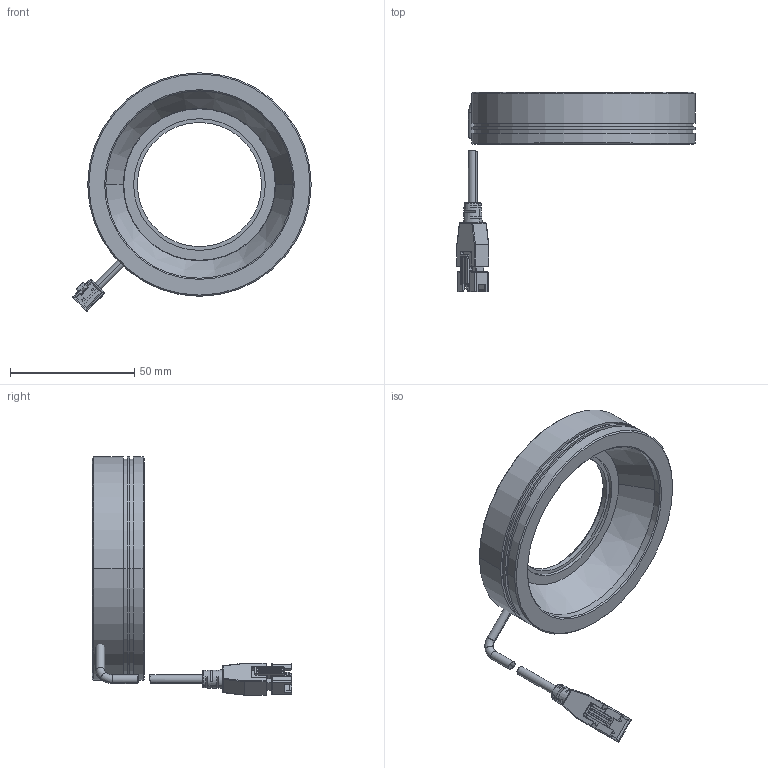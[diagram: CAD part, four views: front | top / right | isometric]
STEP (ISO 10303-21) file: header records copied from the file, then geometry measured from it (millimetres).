
FILE_DESCRIPTION((''),'2;1');
FILE_NAME('MV-LRDS-90-30_ASM','2019-09-19T',('rs-zhongwm'),(''),'PRO/ENGINEER BY PARAMETRIC TECHNOLOGY CORPORATION, 2010100','PRO/ENGINEER BY PARAMETRIC TECHNOLOGY CORPORATION, 2010100','');
FILE_SCHEMA(('CONFIG_CONTROL_DESIGN'));
Length unit declared in the file: millimetre
Products named in the file (5): PRT0027; PRT0028; PRT0029; ASM0019_ASM; MV-LRDS-90-30_ASM
Assembly tree (4 placements, depth 3):
  MV-LRDS-90-30_ASM
    PRT0027
    ASM0019_ASM
      PRT0028
      PRT0029
Bounding box: 96 x 80.3 x 96 mm (x, y, z)
Volume: 59713 mm3; surface area: 22425.6 mm2
Topology: 3 solids, 7 shells, 291 faces, 728 edges, 453 vertices
Faces by surface type: plane 142, cylinder 99, cone 22, torus 12, bspline 8, sphere 8
Entity records: 8955 total; most frequent: CARTESIAN_POINT 1870, DIRECTION 1506, ORIENTED_EDGE 1408, EDGE_CURVE 712, AXIS2_PLACEMENT_3D 544, VERTEX_POINT 453, VECTOR 418, LINE 418
